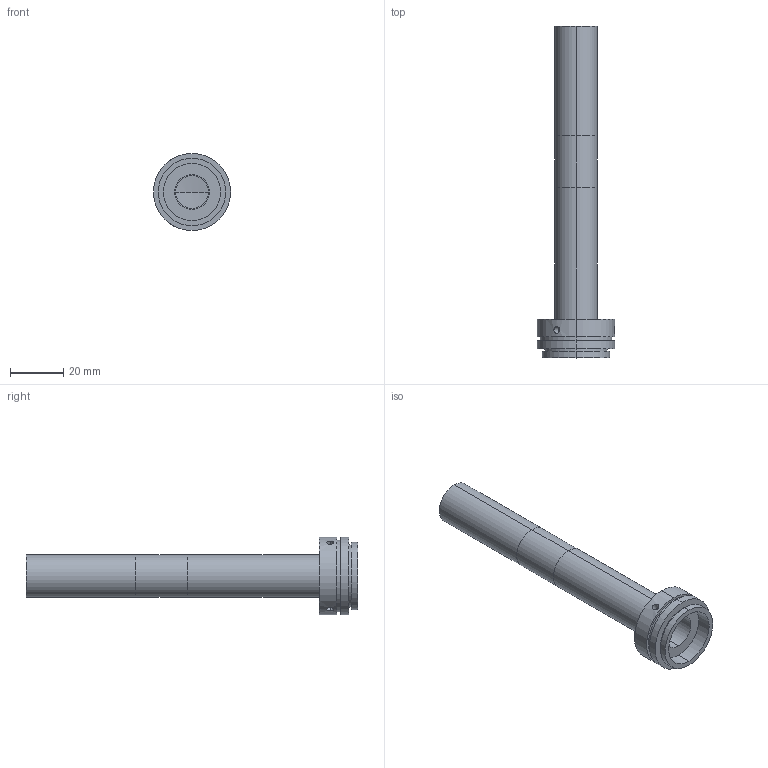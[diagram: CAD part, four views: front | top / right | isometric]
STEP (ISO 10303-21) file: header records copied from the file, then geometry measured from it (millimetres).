
FILE_DESCRIPTION (( 'STEP AP203' ), '1' );
FILE_NAME ('XF-T6X65.STEP', '2015-07-31T05:51:37', ( 'Lxtx999.CoM' ), ( 'Lxtx999.CoM' ), 'SwSTEP 2.0', 'SolidWorks 2014', '' );
FILE_SCHEMA (( 'CONFIG_CONTROL_DESIGN' ));
Length unit declared in the file: millimetre
Products named in the file (1): XF-T6X65
Bounding box: 29 x 124.91 x 29 mm (x, y, z)
Surface area: 10614.1 mm2 (no closed solid volume)
Topology: 0 solids, 9 shells, 56 faces, 142 edges, 97 vertices
Faces by surface type: cylinder 36, plane 18, sphere 2
Entity records: 2003 total; most frequent: CARTESIAN_POINT 524, DIRECTION 322, ORIENTED_EDGE 244, EDGE_CURVE 142, AXIS2_PLACEMENT_3D 135, VERTEX_POINT 97, CIRCLE 78, EDGE_LOOP 72
